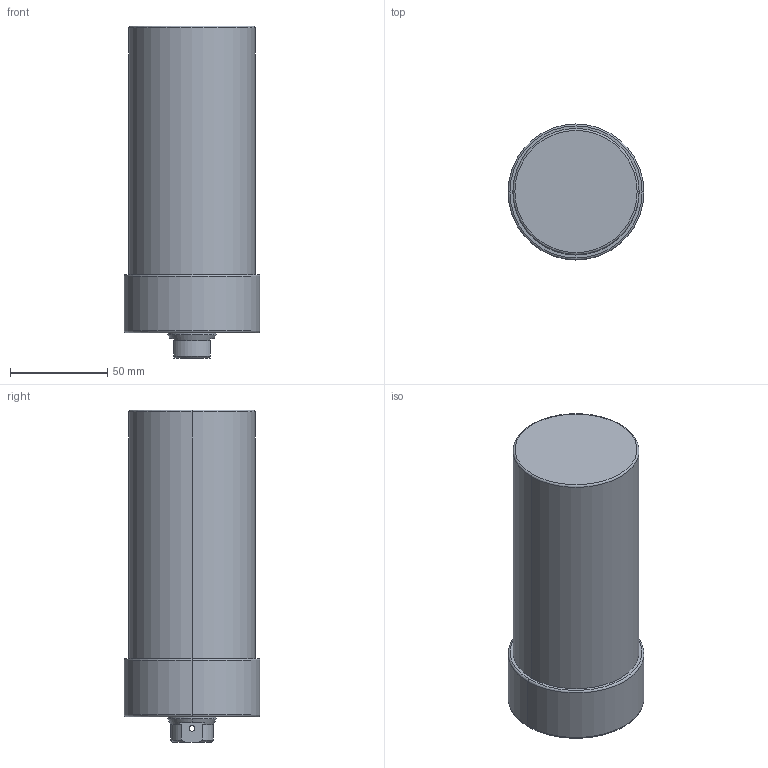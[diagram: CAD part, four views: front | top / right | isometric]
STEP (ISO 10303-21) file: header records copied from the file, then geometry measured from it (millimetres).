
FILE_DESCRIPTION (( 'STEP AP203' ), '1' );
FILE_NAME ('CLLU-065GB-095.STEP', '2020-01-07T06:41:22', ( '' ), ( '' ), 'SwSTEP 2.0', 'SolidWorks 2015', '' );
FILE_SCHEMA (( 'CONFIG_CONTROL_DESIGN' ));
Length unit declared in the file: millimetre
Products named in the file (1): CLLU-065GB-095
Bounding box: 70 x 70 x 171 mm (x, y, z)
Volume: 540568.2 mm3; surface area: 43219.3 mm2
Topology: 1 solids, 1 shells, 66 faces, 154 edges, 87 vertices
Faces by surface type: cylinder 26, cone 24, plane 10, torus 6
Entity records: 2001 total; most frequent: CARTESIAN_POINT 430, DIRECTION 342, ORIENTED_EDGE 288, EDGE_CURVE 144, AXIS2_PLACEMENT_3D 143, VERTEX_POINT 87, EDGE_LOOP 77, CIRCLE 76
